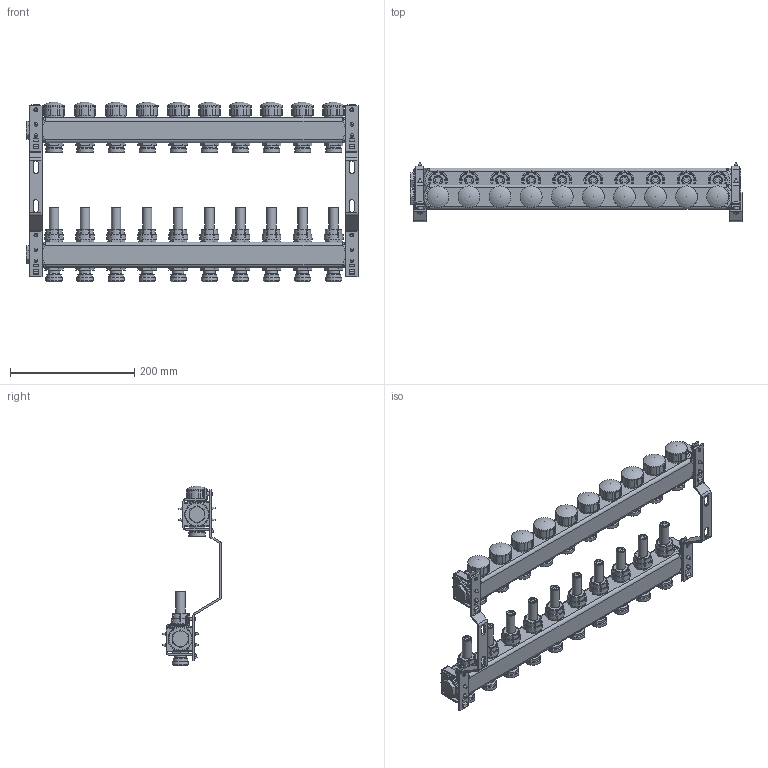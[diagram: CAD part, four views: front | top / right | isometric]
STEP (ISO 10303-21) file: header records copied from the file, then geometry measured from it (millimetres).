
FILE_DESCRIPTION(('STEP AP203'), '1');
FILE_NAME('VTc.584.EMNX.0610', '', ('UNSPECIFIED'), ('UNSPECIFIED'), 'C3D Converter', 'C3D Toolkit', '');
FILE_SCHEMA(('CONFIG_CONTROL_DESIGN'));
Length unit declared in the file: millimetre
Bounding box: 534.2 x 95.7 x 289.2 mm (x, y, z)
Volume: 2280586.7 mm3; surface area: 322933 mm2
Topology: 1 solids, 1 shells, 1848 faces, 5066 edges, 3290 vertices
Faces by surface type: plane 1176, cylinder 394, torus 130, cone 102, bspline 36, sphere 10
Full cylindrical faces by diameter (mm): 5.4 x16, 6 x8, 12 x4, 15 x10, 18.4 x10, 22.9 x10, 23.5 x10, 25.9 x10, 26 x10, 29.5 x10, 34.9 x10, 35.3 x2, 36.5 x2, 39.3 x4
Entity records: 70757 total; most frequent: CARTESIAN_POINT 24884, ORIENTED_EDGE 9604, DIRECTION 9178, EDGE_CURVE 4802, VERTEX_POINT 3276, AXIS2_PLACEMENT_3D 3131, LINE 2916, VECTOR 2916
